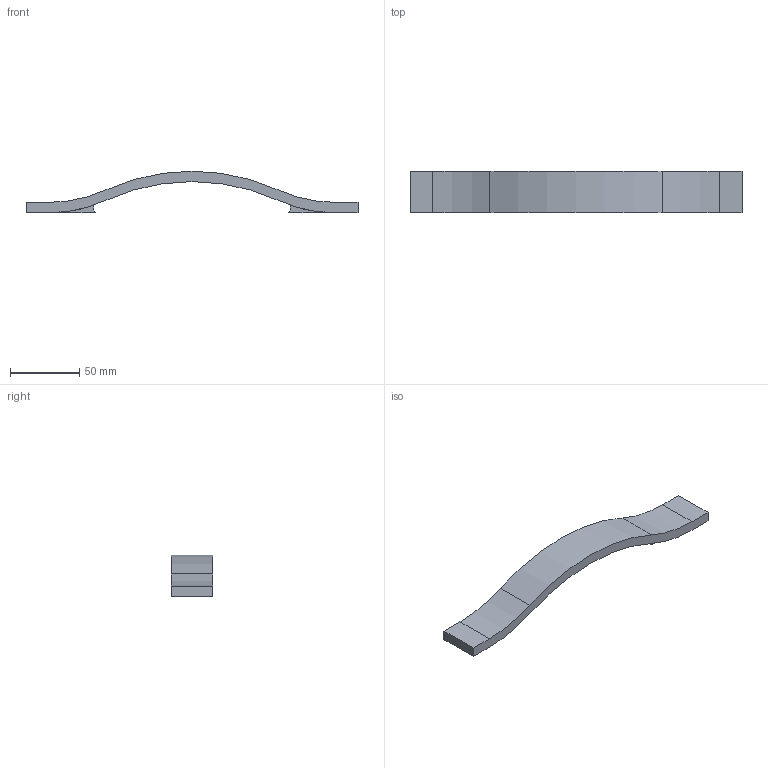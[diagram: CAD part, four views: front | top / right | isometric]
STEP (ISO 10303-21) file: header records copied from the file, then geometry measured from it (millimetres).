
FILE_DESCRIPTION( ( '' ), '1' );
FILE_NAME( 'D:/temp/hettich_stp/hettich/prodecor_handles/folk/9113513.stp', '2013-02-26T12:52:06', ( '' ), ( '' ), ' ', ' ', ' ' );
FILE_SCHEMA( ( 'automotive_design' ) );
Length unit declared in the file: millimetre
Products named in the file (1): 1
Bounding box: 240 x 30 x 30 mm (x, y, z)
Volume: 55481.8 mm3; surface area: 19508.4 mm2
Topology: 1 solids, 1 shells, 26 faces, 66 edges, 44 vertices
Faces by surface type: plane 14, cylinder 12
Entity records: 1580 total; most frequent: DIRECTION 148, STYLED_ITEM 137, PRESENTATION_STYLE_ASSIGNMENT 137, CARTESIAN_POINT 137, COLOUR_RGB 137, ORIENTED_EDGE 132, EDGE_CURVE 66, CURVE_STYLE 66
